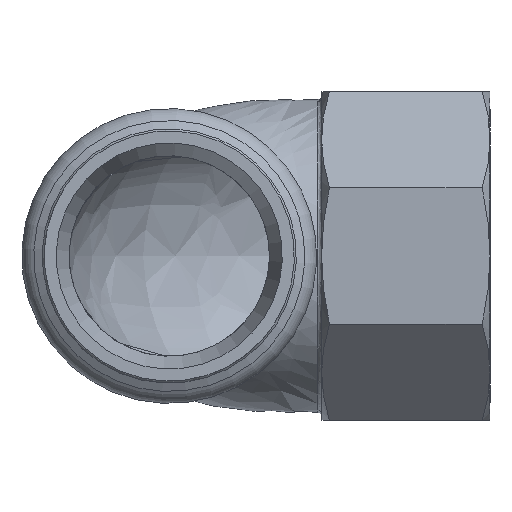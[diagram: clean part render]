
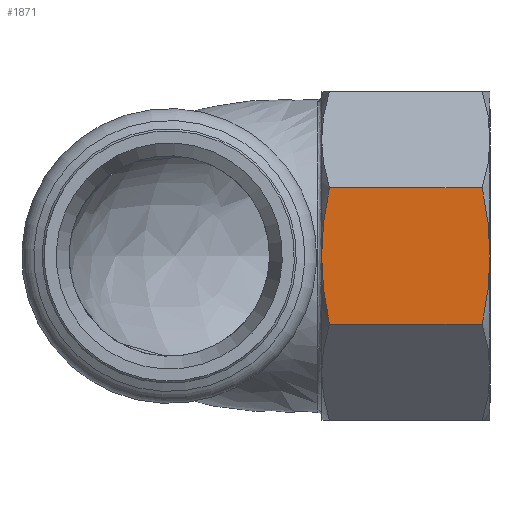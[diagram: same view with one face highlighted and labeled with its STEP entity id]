
A CAD part, left-side view. The second image highlights one B-rep face of the part: STEP entity #1871.
In plain terms, the highlighted planar face has unit normal (-1, 0, 0).
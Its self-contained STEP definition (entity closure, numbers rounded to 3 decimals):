
#249=CARTESIAN_POINT('',(-20.5,-19.975,8.491));
#250=VERTEX_POINT('',#249);
#251=CARTESIAN_POINT('',(-20.5,-19.,0.0));
#252=VERTEX_POINT('',#251);
#253=CARTESIAN_POINT('',(-20.5,-19.975,8.491));
#254=CARTESIAN_POINT('',(-20.5,-19.0,4.078));
#255=CARTESIAN_POINT('',(-20.5,-19.,0.0));
#263=(BOUNDED_CURVE()B_SPLINE_CURVE(2,(#253,#254,#255),.UNSPECIFIED.,.F.,.U.)B_SPLINE_CURVE_WITH_KNOTS((3,3),(0.995,1.946),.UNSPECIFIED.)CURVE()GEOMETRIC_REPRESENTATION_ITEM()RATIONAL_B_SPLINE_CURVE((1.043,1.042,1.0))REPRESENTATION_ITEM(''));
#264=EDGE_CURVE('',#250,#252,#263,.T.);
#294=CARTESIAN_POINT('',(-20.5,-19.975,-8.491));
#295=VERTEX_POINT('',#294);
#311=CARTESIAN_POINT('',(-20.5,-19.,0.0));
#312=CARTESIAN_POINT('',(-20.5,-19.,-4.078));
#313=CARTESIAN_POINT('',(-20.5,-19.975,-8.491));
#321=(BOUNDED_CURVE()B_SPLINE_CURVE(2,(#311,#312,#313),.UNSPECIFIED.,.F.,.U.)B_SPLINE_CURVE_WITH_KNOTS((3,3),(1.946,2.897),.UNSPECIFIED.)CURVE()GEOMETRIC_REPRESENTATION_ITEM()RATIONAL_B_SPLINE_CURVE((1.0,1.042,1.043))REPRESENTATION_ITEM(''));
#322=EDGE_CURVE('',#252,#295,#321,.T.);
#609=CARTESIAN_POINT('',(-20.5,-39.025,-8.491));
#610=VERTEX_POINT('',#609);
#611=CARTESIAN_POINT('',(-20.5,-40.0,0.0));
#612=VERTEX_POINT('',#611);
#613=CARTESIAN_POINT('',(-20.5,-39.025,-8.491));
#614=CARTESIAN_POINT('',(-20.5,-40.,-4.078));
#615=CARTESIAN_POINT('',(-20.5,-40.0,0.0));
#623=(BOUNDED_CURVE()B_SPLINE_CURVE(2,(#613,#614,#615),.UNSPECIFIED.,.F.,.U.)B_SPLINE_CURVE_WITH_KNOTS((3,3),(0.995,1.946),.UNSPECIFIED.)CURVE()GEOMETRIC_REPRESENTATION_ITEM()RATIONAL_B_SPLINE_CURVE((1.043,1.042,1.0))REPRESENTATION_ITEM(''));
#624=EDGE_CURVE('',#610,#612,#623,.T.);
#654=CARTESIAN_POINT('',(-20.5,-39.025,8.491));
#655=VERTEX_POINT('',#654);
#656=CARTESIAN_POINT('',(-20.5,-40.0,0.0));
#657=CARTESIAN_POINT('',(-20.5,-40.,4.078));
#658=CARTESIAN_POINT('',(-20.5,-39.025,8.491));
#666=(BOUNDED_CURVE()B_SPLINE_CURVE(2,(#656,#657,#658),.UNSPECIFIED.,.F.,.U.)B_SPLINE_CURVE_WITH_KNOTS((3,3),(1.946,2.897),.UNSPECIFIED.)CURVE()GEOMETRIC_REPRESENTATION_ITEM()RATIONAL_B_SPLINE_CURVE((1.0,1.042,1.043))REPRESENTATION_ITEM(''));
#667=EDGE_CURVE('',#612,#655,#666,.T.);
#842=CARTESIAN_POINT('',(-20.5,-39.025,-8.491));
#843=DIRECTION('',(0.0,1.0,0.0));
#844=VECTOR('',#843,19.05);
#845=LINE('',#842,#844);
#846=EDGE_CURVE('',#610,#295,#845,.T.);
#1845=CARTESIAN_POINT('',(-20.5,-39.025,8.491));
#1846=DIRECTION('',(0.0,1.0,0.0));
#1847=VECTOR('',#1846,19.05);
#1848=LINE('',#1845,#1847);
#1849=EDGE_CURVE('',#655,#250,#1848,.T.);
#1858=CARTESIAN_POINT('',(-20.5,-40.0,8.491));
#1859=DIRECTION('',(-1.0,0.0,0.0));
#1860=DIRECTION('',(0.0,0.0,1.0));
#1861=AXIS2_PLACEMENT_3D('',#1858,#1859,#1860);
#1862=PLANE('',#1861);
#1863=ORIENTED_EDGE('',*,*,#322,.T.);
#1864=ORIENTED_EDGE('',*,*,#846,.F.);
#1865=ORIENTED_EDGE('',*,*,#624,.T.);
#1866=ORIENTED_EDGE('',*,*,#667,.T.);
#1867=ORIENTED_EDGE('',*,*,#1849,.T.);
#1868=ORIENTED_EDGE('',*,*,#264,.T.);
#1869=EDGE_LOOP('',(#1863,#1864,#1865,#1866,#1867,#1868));
#1870=FACE_OUTER_BOUND('',#1869,.T.);
#1871=ADVANCED_FACE('',(#1870),#1862,.T.);
